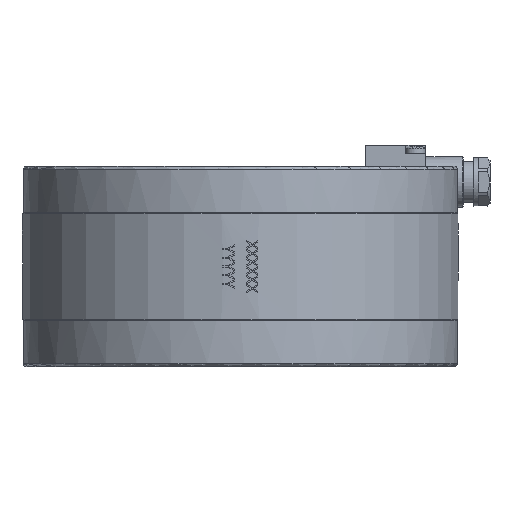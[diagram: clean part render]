
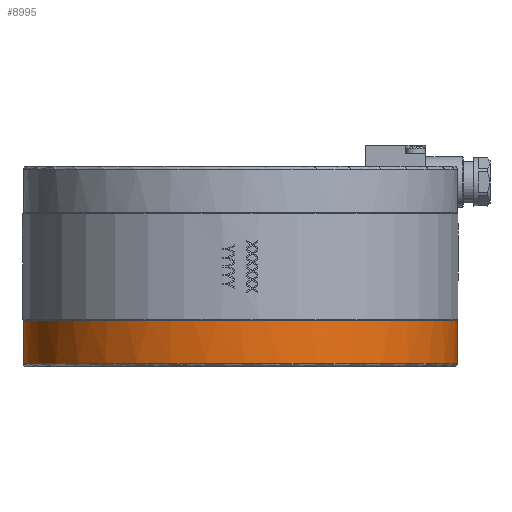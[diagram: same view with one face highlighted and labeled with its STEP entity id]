
A CAD part, front view. The second image highlights one B-rep face of the part: STEP entity #8995.
In plain terms, the highlighted cylindrical face has radius 65 mm (diameter 130 mm), a full revolution.
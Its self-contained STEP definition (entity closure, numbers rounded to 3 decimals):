
#8995=ADVANCED_FACE('',(#14637,#14638),#10566,.T.);
#10566=CYLINDRICAL_SURFACE('',#33831,65.);
#10943=LINE('',#44873,#12746);
#10944=LINE('',#44878,#12747);
#12746=VECTOR('',#36403,1.);
#12747=VECTOR('',#36406,1.);
#14637=FACE_BOUND('',#15564,.T.);
#14638=FACE_BOUND('',#15565,.T.);
#15564=EDGE_LOOP('',(#18914));
#15565=EDGE_LOOP('',(#18915,#18916,#18917,#18918,#18919,#18920));
#17622=CIRCLE('',#33826,65.);
#17623=CIRCLE('',#33827,65.);
#17624=CIRCLE('',#33829,65.);
#18599=ELLIPSE('',#33828,91.924,65.);
#18600=ELLIPSE('',#33830,91.924,65.);
#18914=ORIENTED_EDGE('',*,*,#29134,.T.);
#18915=ORIENTED_EDGE('',*,*,#29135,.F.);
#18916=ORIENTED_EDGE('',*,*,#29136,.T.);
#18917=ORIENTED_EDGE('',*,*,#29137,.F.);
#18918=ORIENTED_EDGE('',*,*,#29138,.T.);
#18919=ORIENTED_EDGE('',*,*,#29139,.F.);
#18920=ORIENTED_EDGE('',*,*,#29140,.T.);
#26419=VERTEX_POINT('',#44872);
#26420=VERTEX_POINT('',#44874);
#26421=VERTEX_POINT('',#44875);
#26422=VERTEX_POINT('',#44877);
#26423=VERTEX_POINT('',#44879);
#26424=VERTEX_POINT('',#44881);
#26425=VERTEX_POINT('',#44883);
#29134=EDGE_CURVE('',#26419,#26419,#17622,.T.);
#29135=EDGE_CURVE('',#26420,#26421,#10943,.T.);
#29136=EDGE_CURVE('BCT_REF_495717',#26420,#26422,#17623,.T.);
#29137=EDGE_CURVE('',#26423,#26422,#10944,.T.);
#29138=EDGE_CURVE('',#26423,#26424,#18599,.T.);
#29139=EDGE_CURVE('',#26425,#26424,#17624,.T.);
#29140=EDGE_CURVE('',#26425,#26421,#18600,.T.);
#33826=AXIS2_PLACEMENT_3D('',#44871,#36401,#36402);
#33827=AXIS2_PLACEMENT_3D('',#44876,#36404,#36405);
#33828=AXIS2_PLACEMENT_3D('',#44880,#36407,#36408);
#33829=AXIS2_PLACEMENT_3D('',#44882,#36409,#36410);
#33830=AXIS2_PLACEMENT_3D('',#44884,#36411,#36412);
#33831=AXIS2_PLACEMENT_3D('',#44885,#36413,#36414);
#36401=DIRECTION('',(0.,0.,1.));
#36402=DIRECTION('',(1.,0.,0.));
#36403=DIRECTION('',(0.,0.,1.));
#36404=DIRECTION('',(0.,0.,-1.));
#36405=DIRECTION('',(1.,0.,0.));
#36406=DIRECTION('',(0.,0.,-1.));
#36407=DIRECTION('',(0.,0.707,-0.707));
#36408=DIRECTION('',(0.,-0.707,-0.707));
#36409=DIRECTION('',(0.,0.,1.));
#36410=DIRECTION('',(1.,0.,0.));
#36411=DIRECTION('',(0.,0.707,-0.707));
#36412=DIRECTION('',(0.,-0.707,-0.707));
#36413=DIRECTION('',(0.,0.,-1.));
#36414=DIRECTION('',(-1.,0.,0.));
#44871=CARTESIAN_POINT('',(0.,0.,-29.));
#44872=CARTESIAN_POINT('',(65.,0.,-29.));
#44873=CARTESIAN_POINT('',(-25.,60.,30.));
#44874=CARTESIAN_POINT('',(-25.,60.,-16.55));
#44875=CARTESIAN_POINT('',(-25.,60.,-15.85));
#44876=CARTESIAN_POINT('',(0.,0.,-16.55));
#44877=CARTESIAN_POINT('',(25.,60.,-16.55));
#44878=CARTESIAN_POINT('',(25.,60.,30.));
#44879=CARTESIAN_POINT('',(25.,60.,-15.85));
#44880=CARTESIAN_POINT('',(0.,0.,-75.85));
#44881=CARTESIAN_POINT('',(25.592,59.75,-16.1));
#44882=CARTESIAN_POINT('',(0.,0.,-16.1));
#44883=CARTESIAN_POINT('',(-25.592,59.75,-16.1));
#44884=CARTESIAN_POINT('',(0.,0.,-75.85));
#44885=CARTESIAN_POINT('',(0.,0.,30.));
